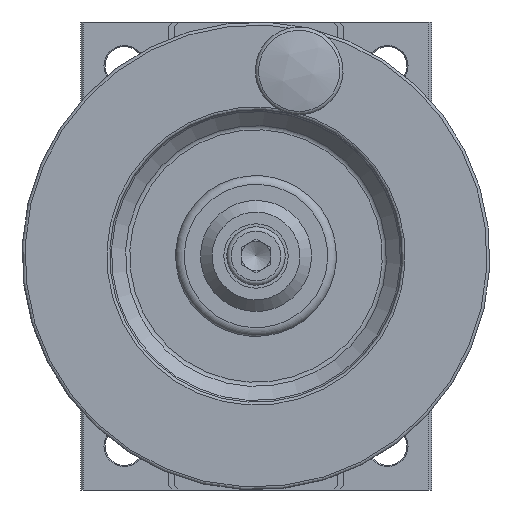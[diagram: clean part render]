
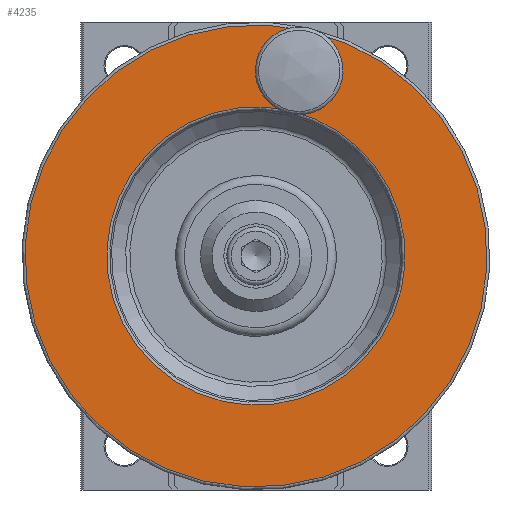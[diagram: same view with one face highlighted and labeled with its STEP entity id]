
A CAD part, left-side view. The second image highlights one B-rep face of the part: STEP entity #4235.
In plain terms, the highlighted planar face has unit normal (-1, 0, 0).
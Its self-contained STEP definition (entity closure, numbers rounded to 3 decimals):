
#31 = CARTESIAN_POINT ( 'NONE',  ( -55., 14., -40. ) ) ;
#604 = ORIENTED_EDGE ( 'NONE', *, *, #5669, .T. ) ;
#974 = CIRCLE ( 'NONE', #7110, 3.001 ) ;
#1521 = PLANE ( 'NONE',  #6232 ) ;
#1735 = DIRECTION ( 'NONE',  ( 1., 0., 0. ) ) ;
#1885 = DIRECTION ( 'NONE',  ( 0., -0.974, -0.227 ) ) ;
#2627 = FACE_BOUND ( 'NONE', #13725, .T. ) ;
#3185 = ORIENTED_EDGE ( 'NONE', *, *, #10679, .T. ) ;
#3332 = CIRCLE ( 'NONE', #10432, 39.5 ) ;
#3458 = CARTESIAN_POINT ( 'NONE',  ( -55., -10.833, -45.793 ) ) ;
#3489 = DIRECTION ( 'NONE',  ( 1., 0., 0. ) ) ;
#4235 = ADVANCED_FACE ( 'NONE', ( #2627, #11738, #7053 ), #1521, .F. ) ;
#4552 = DIRECTION ( 'NONE',  ( -1., 0., 0. ) ) ;
#4857 = CARTESIAN_POINT ( 'NONE',  ( -55., 3.694, -9.032 ) ) ;
#4909 = DIRECTION ( 'NONE',  ( 0., -0.974, -0.227 ) ) ;
#5435 = CIRCLE ( 'NONE', #13002, 25.5 ) ;
#5438 = DIRECTION ( 'NONE',  ( 1., 0., 0. ) ) ;
#5669 = EDGE_CURVE ( 'NONE', #6748, #6748, #3332, .T. ) ;
#5897 = VERTEX_POINT ( 'NONE', #4857 ) ;
#6232 = AXIS2_PLACEMENT_3D ( 'NONE', #7126, #1735, #4909 ) ;
#6406 = CARTESIAN_POINT ( 'NONE',  ( -55., 14., -40. ) ) ;
#6748 = VERTEX_POINT ( 'NONE', #13719 ) ;
#7053 = FACE_OUTER_BOUND ( 'NONE', #9718, .T. ) ;
#7110 = AXIS2_PLACEMENT_3D ( 'NONE', #8871, #3489, #7991 ) ;
#7126 = CARTESIAN_POINT ( 'NONE',  ( -55., 23.088, -78.954 ) ) ;
#7991 = DIRECTION ( 'NONE',  ( 0., -0.974, -0.227 ) ) ;
#8297 = ORIENTED_EDGE ( 'NONE', *, *, #12041, .T. ) ;
#8871 = CARTESIAN_POINT ( 'NONE',  ( -55., 6.616, -8.35 ) ) ;
#9707 = VERTEX_POINT ( 'NONE', #3458 ) ;
#9718 = EDGE_LOOP ( 'NONE', ( #604 ) ) ;
#10432 = AXIS2_PLACEMENT_3D ( 'NONE', #31, #4552, #13603 ) ;
#10679 = EDGE_CURVE ( 'NONE', #9707, #9707, #5435, .T. ) ;
#11258 = EDGE_LOOP ( 'NONE', ( #3185 ) ) ;
#11738 = FACE_BOUND ( 'NONE', #11258, .T. ) ;
#12041 = EDGE_CURVE ( 'NONE', #5897, #5897, #974, .T. ) ;
#13002 = AXIS2_PLACEMENT_3D ( 'NONE', #6406, #5438, #1885 ) ;
#13603 = DIRECTION ( 'NONE',  ( 0., -0.974, -0.227 ) ) ;
#13719 = CARTESIAN_POINT ( 'NONE',  ( -55., -24.467, -48.974 ) ) ;
#13725 = EDGE_LOOP ( 'NONE', ( #8297 ) ) ;
